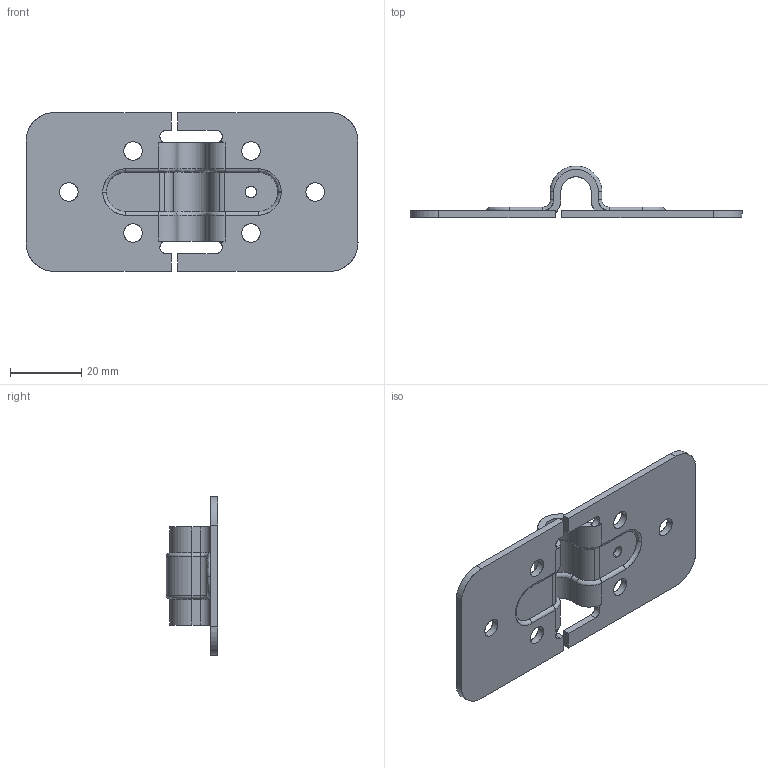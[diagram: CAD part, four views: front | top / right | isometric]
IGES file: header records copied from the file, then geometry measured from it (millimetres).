
Start section: SolidWorks IGES FILE using analytic representation for surfaces
Global section: file name: \\Srv-compta\user\CBRECHARD\Mes documents\ATAO iges\Gamme PE\PE 350\350.010.00.IGS; native system: SolidWorks 2004 by SolidWorks Corporation; preprocessor: Version 5.3; author: Administrateur; date: 070918.161805; units: millimetre
Bounding box: 93 x 14.5 x 44.5 mm (x, y, z)
Surface area: 9598.1 mm2 (no closed solid volume)
Topology: 0 solids, 0 shells, 128 faces, 1487 edges, 1483 vertices
Faces by surface type: revolution 64, bspline 64
